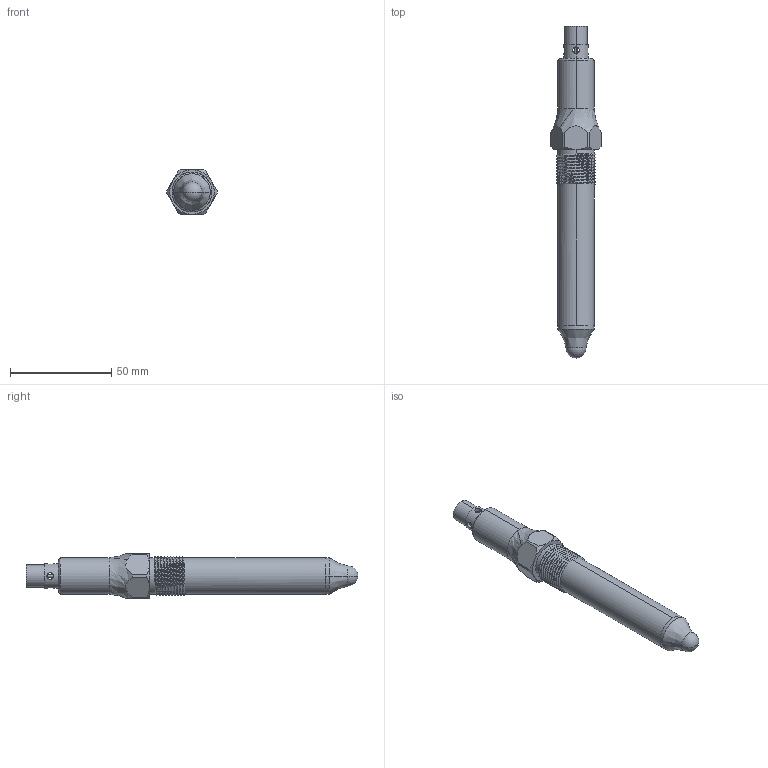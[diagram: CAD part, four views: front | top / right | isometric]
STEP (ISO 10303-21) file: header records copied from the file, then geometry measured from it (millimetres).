
FILE_DESCRIPTION (( 'STEP AP214' ), '1' );
FILE_NAME ('BLM1P3A-100.STEP', '2025-11-06T07:04:09', ( '' ), ( '' ), 'SwSTEP 2.0', 'SolidWorks 2025', '' );
FILE_SCHEMA (( 'AUTOMOTIVE_DESIGN' ));
Length unit declared in the file: millimetre
Products named in the file (1): BLM1P3A-100
Bounding box: 24.83 x 164 x 22 mm (x, y, z)
Volume: 38660 mm3; surface area: 11062.7 mm2
Topology: 2 solids, 2 shells, 93 faces, 250 edges, 155 vertices
Faces by surface type: cylinder 47, plane 21, sphere 10, cone 8, bspline 7
Entity records: 5221 total; most frequent: CARTESIAN_POINT 3166, ORIENTED_EDGE 470, DIRECTION 362, EDGE_CURVE 235, VERTEX_POINT 150, AXIS2_PLACEMENT_3D 144, EDGE_LOOP 105, ADVANCED_FACE 93
